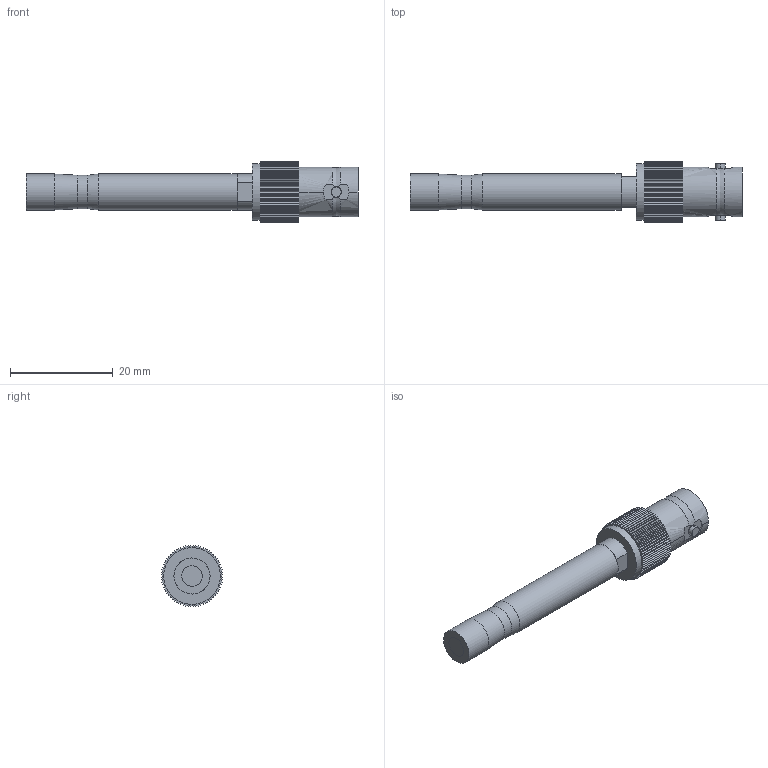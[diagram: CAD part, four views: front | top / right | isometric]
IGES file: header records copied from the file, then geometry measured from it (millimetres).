
Global section: file name: Mikrofon MI15; native system: Autodesk Inventor 2021; preprocessor: unknown; author: RV; date: 20220129.114609; units: millimetre
Bounding box: 64.5 x 11.99 x 11.99 mm (x, y, z)
Volume: 1645.4 mm3; surface area: 3481.5 mm2
Topology: 5 solids, 5 shells, 316 faces, 899 edges, 601 vertices
Faces by surface type: bspline 316
